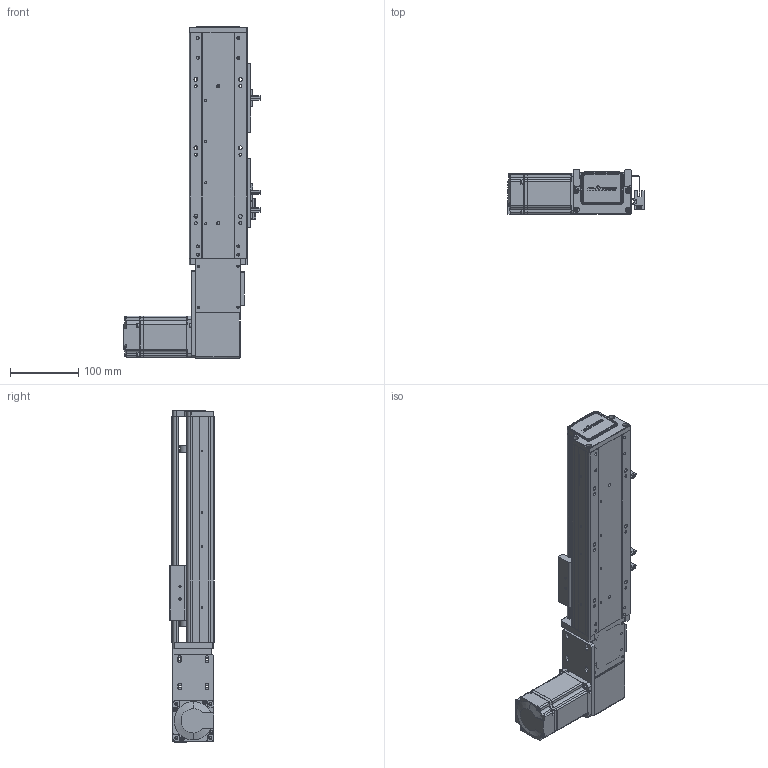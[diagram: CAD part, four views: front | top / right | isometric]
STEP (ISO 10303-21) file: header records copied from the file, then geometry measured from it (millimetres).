
FILE_DESCRIPTION (( 'STEP AP203' ), '1' );
FILE_NAME ('RY80-T-300-LK.SLDASM_150.step', '2021-03-01T01:57:51', ( '盈信电脑' ), ( '东莞市道滘镇水果街19号' ), 'SwSTEP 2.0', 'SolidWorks 2012', '' );
FILE_SCHEMA (( 'CONFIG_CONTROL_DESIGN' ));
Products named in the file (19): RY80-T-300-LK.SLDASM_150; RY80-T-M4蹟翐; RY80-T萇儂假蚾啣; 侂狟200W萇儂; RY80-T肮祭謫俋欶; 1; 滅袉蝶18-10; RY80-T肮祭湍揤輸2; RY80-T粣創揤踡輸; RY80-T肮祭湍揤輸1; RY80-T翋肮祭謫裔啣; RY80俋离覜茼え; RY80-T-翋肮祭謫釱; 覜茼ん672; RY80-T肮祭謫臏賑輸; RY80-T綴裔啣; RY80-T-300-LK倰第奻裔啣_150; 672嫖萇羲壽假蚾釱; RY80-T-300-LK倰第菁釱_150
Assembly tree (24 placements, depth 3):
  RY80-T-300-LK.SLDASM_150
    RY80-T-300-LK倰第菁釱_150
    RY80-T肮祭謫臏賑輸
    RY80-T-300-LK倰第奻裔啣_150
    RY80-T綴裔啣
    672嫖萇羲壽假蚾釱  x2
    覜茼ん672  x3
    RY80俋离覜茼え
    RY80-T-翋肮祭謫釱
    RY80-T肮祭湍揤輸1
    RY80-T肮祭湍揤輸2
    RY80-T粣創揤踡輸
    RY80-T翋肮祭謫裔啣  x2
    滅袉蝶18-10  x2
    侂狟200W萇儂
      1
    RY80-T肮祭謫俋欶
    RY80-T萇儂假蚾啣
    RY80-T-M4蹟翐  x2
Bounding box: 198.7 x 65 x 485 mm (x, y, z)
Volume: 1079794.2 mm3; surface area: 413047.2 mm2
Topology: 23 solids, 23 shells, 2286 faces, 6260 edges, 4063 vertices
Faces by surface type: plane 1285, cylinder 800, cone 145, bspline 56
Entity records: 69925 total; most frequent: CARTESIAN_POINT 15965, ORIENTED_EDGE 10964, DIRECTION 10468, EDGE_CURVE 5482, VERTEX_POINT 3604, VECTOR 3542, LINE 3542, AXIS2_PLACEMENT_3D 3463
